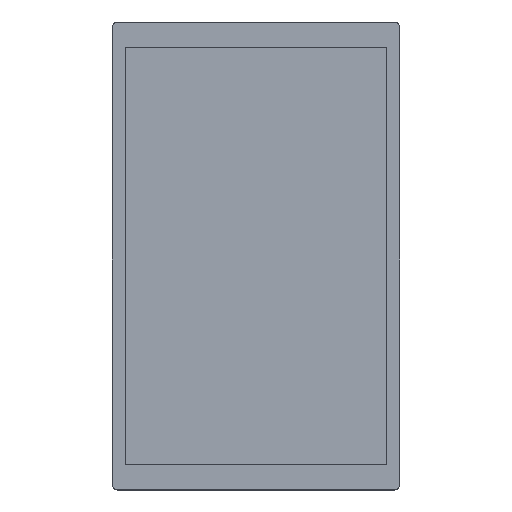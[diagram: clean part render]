
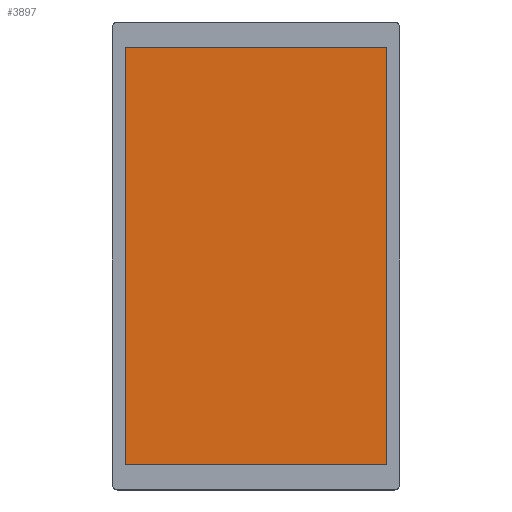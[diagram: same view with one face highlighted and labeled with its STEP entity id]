
A CAD part, top view. The second image highlights one B-rep face of the part: STEP entity #3897.
In plain terms, the highlighted planar face has unit normal (0, 0, 1).
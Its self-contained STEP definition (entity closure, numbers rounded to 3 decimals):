
#2539=DIRECTION('',(1.,0.,0.));
#2540=VECTOR('',#2539,108.24);
#2541=CARTESIAN_POINT('',(-54.12,86.41,4.75));
#2542=LINE('',#2541,#2540);
#2553=DIRECTION('',(0.,-1.,0.));
#2554=VECTOR('',#2553,172.82);
#2555=CARTESIAN_POINT('',(54.12,86.41,4.75));
#2556=LINE('',#2555,#2554);
#2567=DIRECTION('',(-1.,0.,0.));
#2568=VECTOR('',#2567,108.24);
#2569=CARTESIAN_POINT('',(54.12,-86.41,4.75));
#2570=LINE('',#2569,#2568);
#2581=DIRECTION('',(0.,1.,0.));
#2582=VECTOR('',#2581,172.82);
#2583=CARTESIAN_POINT('',(-54.12,-86.41,4.75));
#2584=LINE('',#2583,#2582);
#3247=CARTESIAN_POINT('',(-54.12,86.41,4.75));
#3248=CARTESIAN_POINT('',(54.12,86.41,4.75));
#3249=VERTEX_POINT('',#3247);
#3250=VERTEX_POINT('',#3248);
#3251=CARTESIAN_POINT('',(54.12,-86.41,4.75));
#3252=VERTEX_POINT('',#3251);
#3253=CARTESIAN_POINT('',(-54.12,-86.41,4.75));
#3254=VERTEX_POINT('',#3253);
#3883=CARTESIAN_POINT('',(0.,0.,4.75));
#3884=DIRECTION('',(0.,0.,-1.));
#3885=DIRECTION('',(-1.,0.,0.));
#3886=AXIS2_PLACEMENT_3D('',#3883,#3884,#3885);
#3887=PLANE('',#3886);
#3888=ORIENTED_EDGE('',*,*,#3873,.T.);
#3890=ORIENTED_EDGE('',*,*,#3889,.T.);
#3892=ORIENTED_EDGE('',*,*,#3891,.T.);
#3894=ORIENTED_EDGE('',*,*,#3893,.T.);
#3895=EDGE_LOOP('',(#3888,#3890,#3892,#3894));
#3896=FACE_OUTER_BOUND('',#3895,.F.);
#3897=ADVANCED_FACE('',(#3896),#3887,.F.);
#3873=EDGE_CURVE('',#3249,#3250,#2542,.T.);
#3889=EDGE_CURVE('',#3250,#3252,#2556,.T.);
#3891=EDGE_CURVE('',#3252,#3254,#2570,.T.);
#3893=EDGE_CURVE('',#3254,#3249,#2584,.T.);
